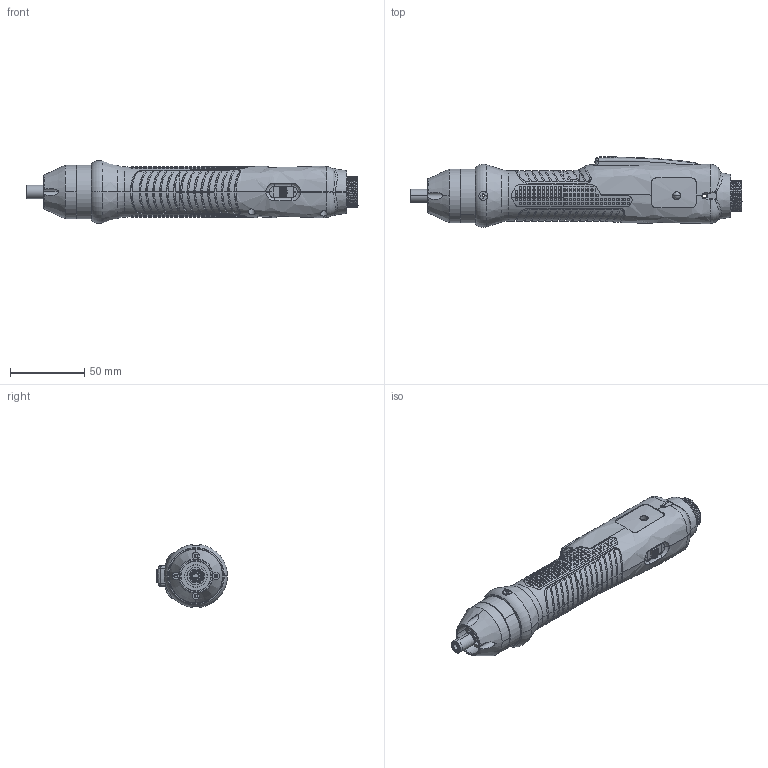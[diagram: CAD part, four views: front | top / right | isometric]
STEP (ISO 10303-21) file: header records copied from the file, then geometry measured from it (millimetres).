
FILE_DESCRIPTION (( 'STEP AP203' ), '1' );
FILE_NAME ('EXT-MD2602-E.STEP', '2023-01-18T02:41:02', ( '' ), ( '' ), 'SwSTEP 2.0', 'SolidWorks 2021', '' );
FILE_SCHEMA (( 'CONFIG_CONTROL_DESIGN' ));
Products named in the file (1): EXT-MD2602-E
Bounding box: 223.18 x 47.6 x 41.97 mm (x, y, z)
Surface area: 37646.4 mm2 (no closed solid volume)
Topology: 0 solids, 44 shells, 2081 faces, 5802 edges, 3958 vertices
Faces by surface type: plane 1246, cylinder 493, bspline 253, cone 42, torus 34, sphere 13
Entity records: 91947 total; most frequent: CARTESIAN_POINT 44273, ORIENTED_EDGE 10756, DIRECTION 7592, EDGE_CURVE 5792, VERTEX_POINT 3952, B_SPLINE_CURVE_WITH_KNOTS 2781, AXIS2_PLACEMENT_3D 2772, EDGE_LOOP 2366
